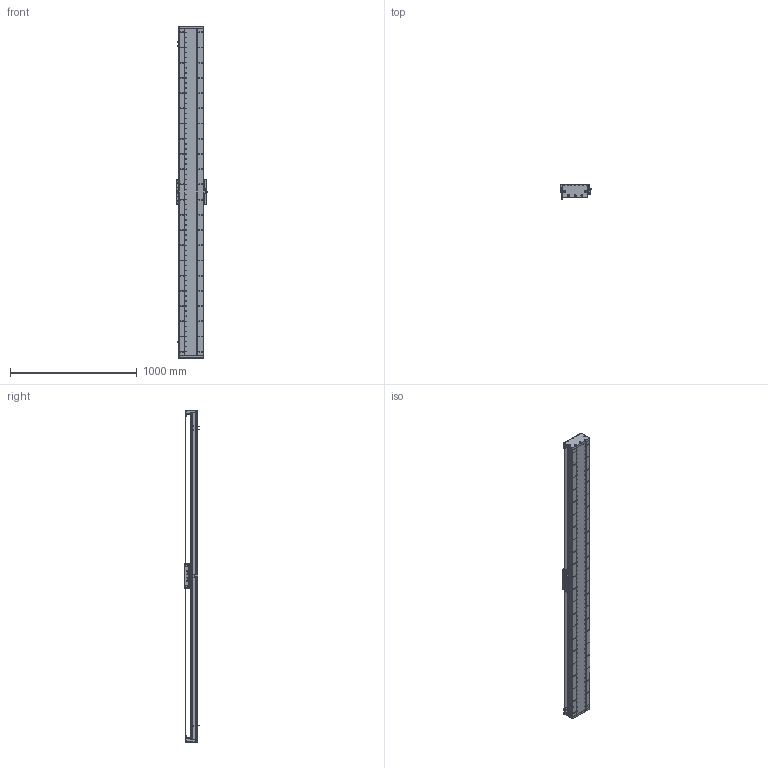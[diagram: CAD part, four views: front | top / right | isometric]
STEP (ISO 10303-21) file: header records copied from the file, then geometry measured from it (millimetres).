
FILE_DESCRIPTION (( 'STEP AP203' ), '1' );
FILE_NAME ('DA-C195-C2-T2340-C010-0.2 眻盄萇儂.STEP', '2025-08-15T01:12:05', ( '' ), ( '' ), 'SwSTEP 2.0', 'SolidWorks 2019', '' );
FILE_SCHEMA (( 'CONFIG_CONTROL_DESIGN' ));
Length unit declared in the file: millimetre
Products named in the file (15): DA195詩湍郪璃; IU-CU195-L 菁釱絳寢; DA-C195-GD-DB-H-00 傷啣; LMT黍杅芛; DA-C195-C2-T2340-C010-0.2 眻盄萇儂; DA195詩湍嶺輸; CU195-C2賑輸-俋楷; IU-CU195-L-00 菁釱(L2580); DA195詩湍裔啣; DA95-HXJ-00 遣喳砎蝶; PM-T45ㄗ侂狟ㄘ; DA195詩湍菜輸; 葩璃 DA95-GT-T-00; MS200 棠掑喜S315-T1740; DA165-GYP-00 光电感应片(默认)
Assembly tree (29 placements, depth 3):
  DA-C195-C2-T2340-C010-0.2 眻盄萇儂
    DA195詩湍郪璃
      DA195詩湍菜輸  x2
      DA195詩湍裔啣
      DA195詩湍嶺輸  x2
      DA95-HXJ-00 遣喳砎蝶  x8
      DA-C195-GD-DB-H-00 傷啣  x2
    IU-CU195-L 菁釱絳寢
      IU-CU195-L-00 菁釱(L2580)
      葩璃 DA95-GT-T-00  x4
    LMT黍杅芛
    MS200 棠掑喜S315-T1740
    PM-T45ㄗ侂狟ㄘ  x3
    DA165-GYP-00 光电感应片(默认)
    CU195-C2賑輸-俋楷
Bounding box: 248 x 115.45 x 2620 mm (x, y, z)
Volume: 15046307.8 mm3; surface area: 4451687.2 mm2
Topology: 66 solids, 130 shells, 4394 faces, 12283 edges, 7735 vertices
Faces by surface type: cylinder 2375, plane 1401, cone 530, torus 52, sphere 36
Entity records: 140933 total; most frequent: CARTESIAN_POINT 38322, ORIENTED_EDGE 21450, DIRECTION 20656, EDGE_CURVE 10725, AXIS2_PLACEMENT_3D 7761, VERTEX_POINT 6937, LINE 5134, VECTOR 5134
